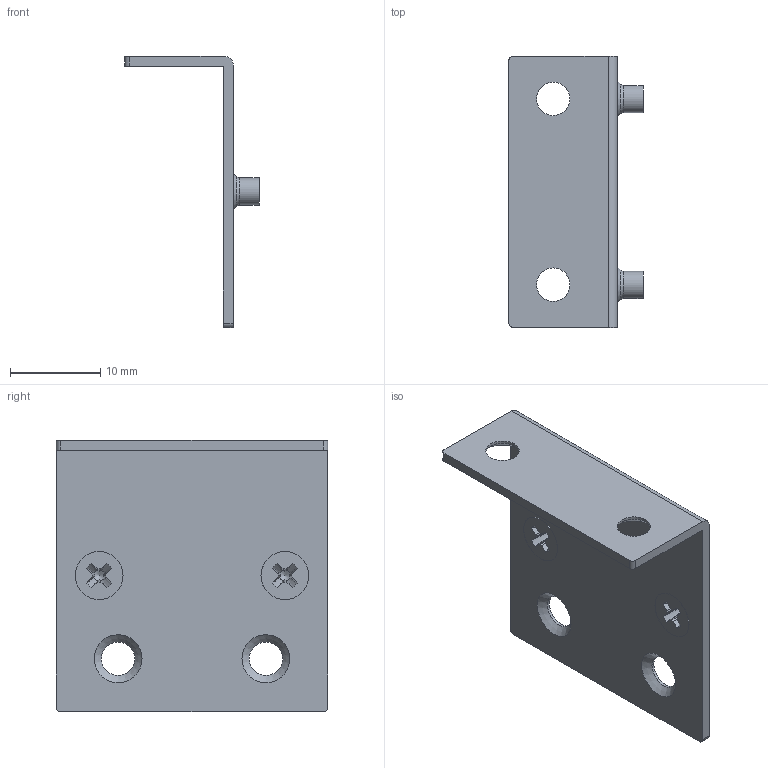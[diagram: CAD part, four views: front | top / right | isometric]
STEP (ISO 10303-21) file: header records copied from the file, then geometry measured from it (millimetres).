
FILE_DESCRIPTION(('FreeCAD Model'),'2;1');
FILE_NAME('Open CASCADE Shape Model','2026-01-15T11:23:34',(''),(''), 'Open CASCADE STEP processor 7.8','FreeCAD','Unknown');
FILE_SCHEMA(('AUTOMOTIVE_DESIGN { 1 0 10303 214 1 1 1 1 }'));
Length unit declared in the file: millimetre
Products named in the file (3): Unnamed; Wallmount-Kit_62020PoE; M3x4-Schraube001
Assembly tree (3 placements, depth 2):
  Unnamed
    Wallmount-Kit_62020PoE
    M3x4-Schraube001  x2
Bounding box: 14.87 x 30 x 30 mm (x, y, z)
Volume: 1323.1 mm3; surface area: 2701.7 mm2
Topology: 3 solids, 3 shells, 79 faces, 205 edges, 132 vertices
Faces by surface type: plane 44, cone 18, cylinder 15, torus 2
Full cylindrical faces by diameter (mm): 3 x2, 3.7 x6, 5.3 x2
Entity records: 1721 total; most frequent: DIRECTION 311, CARTESIAN_POINT 275, ORIENTED_EDGE 266, EDGE_CURVE 133, AXIS2_PLACEMENT_3D 122, VERTEX_POINT 86, LINE 67, VECTOR 67
